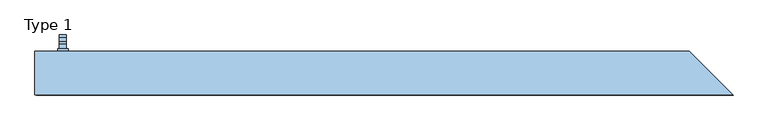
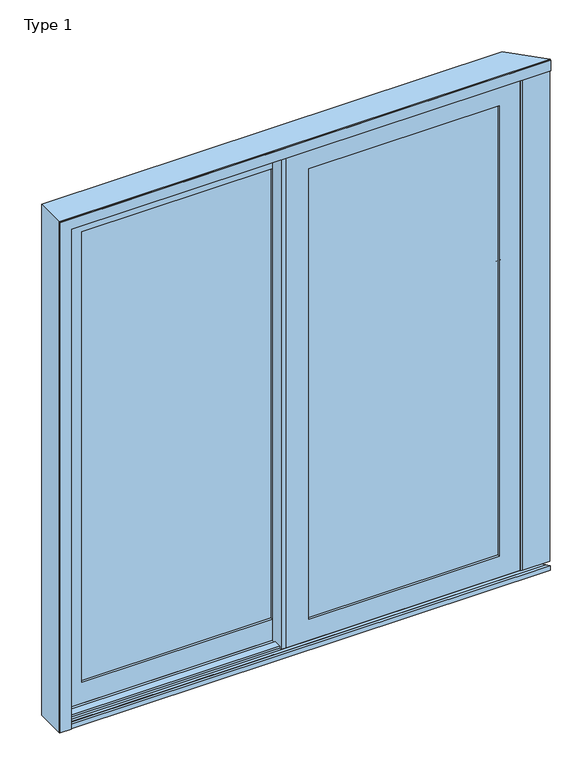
"""IFC4 building model written with IfcOpenShell, lengths in millimetres: window geometry, ETEM_E50_Double_Lift_Sliding-Corner Profile : Type 1."""

from ifc_helpers import new_model, si_unit, point, frame, frame_2d, origin, place, context, project, spatial, polyline, circle_curve, trimmed, segment, composite_curve, outline, extrude, faceted_brep, source, transform, mapped, element, save


def type_1_522c6c81(model_context):
    return source(origin(), model_context, "Body", "SolidModel", [
        extrude(outline(polyline([(859.8, -36.4240972), (859.8, -49.4240972), (829.8, -49.4240972), (829.8, -36.4240972), (859.8, -36.4240972)])), frame((0.0, 0.0, 1065.0), z_axis=(0.0, 0.0, 1.0), x_axis=(1.0, 0.0, 0.0)), (0.0, 0.0, 1.0), 70.0),
        extrude(outline(composite_curve([segment(polyline([(-36.4240972, 1090.0), (-36.4240972, 1110.0), (-9.9596311, 1110.0)]), True, "CONTINUOUS"), segment(trimmed(circle_curve(frame_2d((-9.9596311, 1113.5355339)), 3.5355339), [point((-9.9596311, 1110.0))], [point((-6.4240972, 1113.5355339))], True, "CARTESIAN"), True, "CONTINUOUS"), segment(polyline([(-6.4240972, 1113.5355339), (-6.4240972, 1326.4644661)]), True, "CONTINUOUS"), segment(trimmed(circle_curve(frame_2d((-9.9596311, 1326.4644661)), 3.5355339), [point((-6.4240972, 1326.4644661))], [point((-9.9596311, 1330.0))], True, "CARTESIAN"), True, "CONTINUOUS"), segment(polyline([(-9.9596311, 1330.0), (-16.4240972, 1330.0)]), True, "CONTINUOUS"), segment(trimmed(circle_curve(frame_2d((-16.4240972, 1335.0)), 5.0), [point((-16.4240972, 1330.0))], [point((-16.4240972, 1340.0))], False, "CARTESIAN"), True, "CONTINUOUS"), segment(polyline([(-16.4240972, 1340.0), (-4.8504124, 1340.0)]), True, "CONTINUOUS"), segment(trimmed(circle_curve(frame_2d((-4.8504124, 1331.5736848)), 8.4263152), [point((-4.8504124, 1340.0))], [point((3.5759028, 1331.5736848))], False, "CARTESIAN"), True, "CONTINUOUS"), segment(polyline([(3.5759028, 1331.5736848), (3.5759028, 1098.4263152)]), True, "CONTINUOUS"), segment(trimmed(circle_curve(frame_2d((-4.8504124, 1098.4263152)), 8.4263152), [point((3.5759028, 1098.4263152))], [point((-4.8504124, 1090.0))], False, "CARTESIAN"), True, "CONTINUOUS"), segment(polyline([(-4.8504124, 1090.0), (-36.4240972, 1090.0)]), True, "CONTINUOUS")], self_intersect=False)), frame((834.8, 0.0, 0.0), z_axis=(1.0, 0.0, 0.0), x_axis=(0.0, 1.0, 0.0)), (0.0, 0.0, 1.0), 20.0),
        extrude(outline(polyline([(-904.999965, 28.6518056), (-904.999965, 15.6518056), (-934.999965, 15.6518056), (-934.999965, 28.6518056), (-904.999965, 28.6518056)])), frame((0.0, 0.0, 1065.0), z_axis=(0.0, 0.0, 1.0), x_axis=(1.0, 0.0, 0.0)), (0.0, 0.0, 1.0), 70.0),
        extrude(outline(composite_curve([segment(polyline([(28.6518056, 1090.0), (28.6518056, 1110.0), (55.1162717, 1110.0)]), True, "CONTINUOUS"), segment(trimmed(circle_curve(frame_2d((55.1162717, 1113.5355339)), 3.5355339), [point((55.1162717, 1110.0))], [point((58.6518056, 1113.5355339))], True, "CARTESIAN"), True, "CONTINUOUS"), segment(polyline([(58.6518056, 1113.5355339), (58.6518056, 1326.4644661)]), True, "CONTINUOUS"), segment(trimmed(circle_curve(frame_2d((55.1162717, 1326.4644661)), 3.5355339), [point((58.6518056, 1326.4644661))], [point((55.1162717, 1330.0))], True, "CARTESIAN"), True, "CONTINUOUS"), segment(polyline([(55.1162717, 1330.0), (48.6518056, 1330.0)]), True, "CONTINUOUS"), segment(trimmed(circle_curve(frame_2d((48.6518056, 1335.0)), 5.0), [point((48.6518056, 1330.0))], [point((48.6518056, 1340.0))], False, "CARTESIAN"), True, "CONTINUOUS"), segment(polyline([(48.6518056, 1340.0), (60.2254904, 1340.0)]), True, "CONTINUOUS"), segment(trimmed(circle_curve(frame_2d((60.2254904, 1331.5736848)), 8.4263152), [point((60.2254904, 1340.0))], [point((68.6518056, 1331.5736848))], False, "CARTESIAN"), True, "CONTINUOUS"), segment(polyline([(68.6518056, 1331.5736848), (68.6518056, 1098.4263152)]), True, "CONTINUOUS"), segment(trimmed(circle_curve(frame_2d((60.2254904, 1098.4263152)), 8.4263152), [point((68.6518056, 1098.4263152))], [point((60.2254904, 1090.0))], False, "CARTESIAN"), True, "CONTINUOUS"), segment(polyline([(60.2254904, 1090.0), (28.6518056, 1090.0)]), True, "CONTINUOUS")], self_intersect=False)), frame((-929.999965, 0.0, 0.0), z_axis=(1.0, 0.0, 0.0), x_axis=(0.0, 1.0, 0.0)), (0.0, 0.0, 1.0), 20.0),
        faceted_brep([(-2.1, 10.9518056, 2160.5), (-2.1, 10.9518056, 39.5), (-2.1, 15.6518056, 39.5), (-2.1, 15.6518056, 2160.5), (-960.499965, 15.6518056, 39.5), (-960.499965, 15.6518056, 2160.5), (-93.6, 15.6518056, 131.0), (-93.6, 15.6518056, 2069.0), (-868.999965, 15.6518056, 2069.0), (-868.999965, 15.6518056, 131.0), (-960.499965, 10.9518056, 39.5), (-960.499965, 10.9518056, 2160.5), (-31.3, 10.9518056, 2131.3), (-31.3, 10.9518056, 68.7), (-931.299965, 10.9518056, 68.7), (-931.299965, 10.9518056, 2131.3), (-31.3, -29.6481944, 2131.3), (-31.3, -29.6481944, 68.7), (-931.299965, -29.6481944, 68.7), (-2.1, -29.6481944, 2160.5), (-2.1, -29.6481944, 39.5), (-960.499965, -29.6481944, 39.5), (-960.499965, -29.6481944, 2160.5), (-931.299965, -29.6481944, 2131.3), (-2.1, -34.3481944, 2160.5), (-2.1, -34.3481944, 39.5), (-960.499965, -34.3481944, 39.5), (-960.499965, -34.3481944, 2160.5), (-93.6, -34.3481944, 2069.0), (-93.6, -34.3481944, 131.0), (-868.999965, -34.3481944, 131.0), (-868.999965, -34.3481944, 2069.0)], [[[0, 1, 2, 3]], [[3, 2, 4, 5], [6, 7, 8, 9]], [[1, 10, 4, 2]], [[1, 0, 11, 10], [12, 13, 14, 15]], [[16, 17, 13, 12]], [[17, 18, 14, 13]], [[19, 20, 21, 22], [17, 16, 23, 18]], [[24, 25, 20, 19]], [[25, 26, 21, 20]], [[25, 24, 27, 26], [28, 29, 30, 31]], [[10, 11, 5, 4]], [[18, 23, 15, 14]], [[26, 27, 22, 21]], [[6, 9, 30, 29]], [[9, 8, 31, 30]], [[7, 6, 29, 28]], [[11, 0, 3, 5]], [[23, 16, 12, 15]], [[27, 24, 19, 22]], [[8, 7, 28, 31]]]),
        faceted_brep([(-73.1, -94.6481944, 2160.5), (-73.1, -94.6481944, 39.5), (-73.1, -99.3481944, 39.5), (-73.1, -99.3481944, 2160.5), (885.299965, -94.6481944, 39.5), (885.299965, -99.3481944, 39.5), (885.299965, -99.3481944, 2160.5), (793.8, -99.3481944, 130.999965), (18.399965, -99.3481944, 130.999965), (18.399965, -99.3481944, 2069.000035), (793.8, -99.3481944, 2069.000035), (885.299965, -94.6481944, 2160.5), (-43.9, -94.6481944, 68.7), (856.099965, -94.6481944, 68.7), (856.099965, -94.6481944, 2131.3), (-43.9, -94.6481944, 2131.3), (-43.9, -54.0481944, 2131.3), (-43.9, -54.0481944, 68.7), (856.099965, -54.0481944, 68.7), (856.099965, -54.0481944, 2131.3), (-73.1, -54.0481944, 39.5), (885.299965, -54.0481944, 39.5), (885.299965, -54.0481944, 2160.5), (-73.1, -54.0481944, 2160.5), (-73.1, -49.4240972, 2160.5), (-73.1, -49.4240972, 39.5), (885.299965, -49.4240972, 39.5), (885.299965, -49.4240972, 2160.5), (18.399965, -49.4240972, 130.999965), (793.8, -49.4240972, 130.999965), (793.8, -49.4240972, 2069.000035), (18.399965, -49.4240972, 2069.000035)], [[[0, 1, 2, 3]], [[1, 4, 5, 2]], [[2, 5, 6, 3], [7, 8, 9, 10]], [[4, 11, 6, 5]], [[4, 1, 0, 11], [12, 13, 14, 15]], [[16, 17, 12, 15]], [[17, 18, 13, 12]], [[18, 19, 14, 13]], [[20, 21, 22, 23], [18, 17, 16, 19]], [[24, 25, 20, 23]], [[25, 26, 21, 20]], [[26, 27, 22, 21]], [[26, 25, 24, 27], [28, 29, 30, 31]], [[9, 8, 28, 31]], [[8, 7, 29, 28]], [[7, 10, 30, 29]], [[11, 0, 3, 6]], [[19, 16, 15, 14]], [[27, 24, 23, 22]], [[10, 9, 31, 30]]]),
        extrude(outline(polyline([(18.399965, 15.6518056), (18.399965, -45.3481944), (-2.1, -45.3481944), (-2.1, 15.6518056), (18.399965, 15.6518056)])), frame((0.0, 0.0, 39.5), z_axis=(0.0, 0.0, 1.0), x_axis=(1.0, 0.0, 0.0)), (0.0, 0.0, 1.0), 2121.0),
        extrude(outline(polyline([(-93.6, -38.3481944), (-73.1, -38.3481944), (-73.1, -99.3481944), (-93.6, -99.3481944), (-93.6, -38.3481944)])), frame((0.0, 0.0, 39.5), z_axis=(0.0, 0.0, 1.0), x_axis=(1.0, 0.0, 0.0)), (0.0, 0.0, 1.0), 2121.0),
        extrude(outline(polyline([(-93.6, -0.3481944), (-93.6, -5.3481944), (-868.999965, -5.3481944), (-868.999965, -0.3481944), (-93.6, -0.3481944)])), frame((0.0, 0.0, 131.0), z_axis=(0.0, 0.0, 1.0), x_axis=(1.0, 0.0, 0.0)), (0.0, 0.0, 1.0), 1938.0),
        extrude(outline(polyline([(18.399965, -91.3480733), (18.399965, -86.3480733), (793.8, -86.3480733), (793.8, -91.3480733), (18.399965, -91.3480733)])), frame((0.0, 0.0, 130.999965), z_axis=(0.0, 0.0, 1.0), x_axis=(1.0, 0.0, 0.0)), (0.0, 0.0, 1.0), 1938.00007),
        faceted_brep([(-996.499965, -103.5481944, 0.0), (-1000.0, -103.5481944, 0.0), (-1000.0, 21.2518056, 0.0), (875.2, 21.2518056, 0.0), (1000.0, -103.5481944, 0.0), (-951.499965, -103.5481944, 0.0), (-951.499965, -105.0, 0.0), (-996.499965, -105.0, 0.0), (-996.499965, -105.0, 2196.499965), (-996.499965, -103.5481944, 2196.499965), (-951.499965, -105.0, 2151.499965), (1001.5, -105.0, 2151.499965), (1001.4518056, -105.0, 2196.499965), (-951.499965, -103.5481944, 19.8), (-951.499965, -101.4, 19.8), (-951.499965, -101.4, 2151.499965), (1000.0, -103.5481944, 2196.499965), (1000.0, -103.5481944, 2200.0), (-1000.0, -103.5481944, 2200.0), (1000.0, -103.5481944, 19.8), (875.2, 21.2518056, 48.5), (878.8, 17.6518056, 48.5), (878.8, 17.6518056, 21.8), (901.3, -4.8481944, 21.8), (901.3, -4.8481944, 40.5), (889.8, 6.6518056, 40.5), (889.8, 6.6518056, 48.5), (921.8, -25.3481944, 48.5), (921.8, -25.3481944, 40.5), (910.3, -13.8481944, 40.5), (910.3, -13.8481944, 21.8), (966.3, -69.8481944, 21.8), (966.3, -69.8481944, 40.5), (954.8, -58.3481944, 40.5), (954.8, -58.3481944, 48.5), (986.8, -90.3481944, 48.5), (986.8, -90.3481944, 40.5), (975.3, -78.8481944, 40.5), (975.3, -78.8481944, 21.8), (988.5, -92.0481944, 21.8), (988.5, -92.0481944, 19.8), (-951.5, 21.2518056, 48.5), (-1000.0, 21.2518056, 2200.0), (875.2, 21.2518056, 2200.0), (875.2, 21.2518056, 2151.5), (-951.5, 21.2518056, 2151.5), (-978.2, -92.0481944, 21.8), (-978.2, -78.8481944, 21.8), (-978.199965, -78.8481944, 2178.2), (-978.199965, -101.4, 2178.199965), (-978.199965, -101.4, 19.8), (-978.199965, -92.0481944, 19.8), (-959.5, -78.8481944, 40.5), (-959.5, -78.8481944, 2159.5), (975.3, -78.8481944, 2159.5), (975.3, -78.8481944, 2178.2), (-959.5, -90.3481944, 40.5), (-959.5, -90.3481944, 2159.5), (-951.5, -90.3481944, 48.5), (-951.5, -90.3481944, 2151.5), (986.8, -90.3481944, 2151.5), (986.8, -90.3481944, 2159.5), (-951.5, -58.3481944, 48.5), (-951.5, -58.3481944, 2151.5), (-959.5, -58.3481944, 40.5), (-959.5, -58.3481944, 2159.5), (954.8, -58.3481944, 2159.5), (954.8, -58.3481944, 2151.5), (-978.2, -69.8481944, 21.8), (-978.2, -13.8481944, 21.8), (-978.2, -13.8481944, 2178.2), (-978.2, -69.8481944, 2178.2), (-959.5, -13.8481944, 40.5), (-959.5, -13.8481944, 2159.5), (910.3, -13.8481944, 2159.5), (910.3, -13.8481944, 2178.2), (-959.5, -69.8481944, 40.5), (966.3, -69.8481944, 2178.2), (966.3, -69.8481944, 2159.5), (-959.5, -69.8481944, 2159.5), (-951.5, -25.3481944, 48.5), (-951.5, 6.6518056, 48.5), (-951.5, 6.6518056, 2151.5), (-951.5, -25.3481944, 2151.5), (-959.5, 6.6518056, 40.5), (-959.5, 6.6518056, 2159.5), (889.8, 6.6518056, 2159.5), (889.8, 6.6518056, 2151.5), (-959.5, -25.3481944, 40.5), (921.8, -25.3481944, 2151.5), (921.8, -25.3481944, 2159.5), (-959.5, -25.3481944, 2159.5), (-978.2, -4.8481944, 21.8), (-978.2, 17.6518056, 21.8), (-978.2, 17.6518056, 2178.2), (-978.2, -4.8481944, 2178.2), (-951.5, 17.6518056, 48.5), (-951.5, 17.6518056, 2151.5), (878.8, 17.6518056, 2151.5), (878.8, 17.6518056, 2178.2), (-959.5, -4.8481944, 40.5), (901.3, -4.8481944, 2178.2), (901.3, -4.8481944, 2159.5), (-959.5, -4.8481944, 2159.5), (997.8518056, -101.4, 2178.199965), (997.8518056, -101.4, 2151.499965)], [[[0, 1, 2, 3, 4, 5, 6, 7]], [[7, 8, 9, 0]], [[6, 10, 11, 12, 8, 7]], [[10, 6, 5, 13, 14, 15]], [[1, 0, 9, 16, 17, 18]], [[4, 19, 13, 5]], [[3, 20, 21, 22, 23, 24, 25, 26, 27, 28, 29, 30, 31, 32, 33, 34, 35, 36, 37, 38, 39, 40, 19, 4]], [[41, 20, 3, 2, 42, 43, 44, 45]], [[1, 18, 42, 2]], [[46, 39, 38, 47]], [[47, 48, 49, 50, 51, 46]], [[47, 38, 37, 52, 53, 54, 55, 48]], [[51, 40, 39, 46]], [[52, 37, 36, 56]], [[52, 56, 57, 53]], [[56, 36, 35, 58, 59, 60, 61, 57]], [[58, 35, 34, 62]], [[58, 62, 63, 59]], [[62, 34, 33, 64, 65, 66, 67, 63]], [[68, 31, 30, 69]], [[68, 69, 70, 71]], [[69, 30, 29, 72, 73, 74, 75, 70]], [[76, 32, 31, 68, 71, 77, 78, 79]], [[80, 27, 26, 81]], [[81, 82, 83, 80]], [[81, 26, 25, 84, 85, 86, 87, 82]], [[88, 28, 27, 80, 83, 89, 90, 91]], [[72, 29, 28, 88]], [[72, 88, 91, 73]], [[92, 23, 22, 93]], [[92, 93, 94, 95]], [[93, 22, 21, 96, 97, 98, 99, 94]], [[100, 24, 23, 92, 95, 101, 102, 103]], [[96, 21, 20, 41]], [[96, 41, 45, 97]], [[64, 33, 32, 76]], [[79, 65, 64, 76]], [[84, 25, 24, 100]], [[84, 100, 103, 85]], [[19, 40, 51, 50, 14, 13]], [[14, 50, 49, 104, 105, 15]], [[8, 12, 16, 9]], [[15, 105, 11, 10]], [[17, 43, 42, 18]], [[57, 61, 54, 53]], [[63, 67, 60, 59]], [[70, 75, 77, 71]], [[82, 87, 89, 83]], [[91, 90, 74, 73]], [[94, 99, 101, 95]], [[45, 44, 98, 97]], [[79, 78, 66, 65]], [[103, 102, 86, 85]], [[48, 55, 104, 49]], [[12, 11, 105, 104, 55, 54, 61, 60, 67, 66, 78, 77, 75, 74, 90, 89, 87, 86, 102, 101, 99, 98, 44, 43, 17, 16]]]),
        extrude(outline(polyline([(18.399965, -70.3481944), (18.399965, -65.3481944), (793.8, -65.3481944), (793.8, -70.3481944), (18.399965, -70.3481944)])), frame((0.0, 0.0, 130.999965), z_axis=(0.0, 0.0, 1.0), x_axis=(1.0, 0.0, 0.0)), (0.0, 0.0, 1.0), 1938.00007),
        extrude(outline(polyline([(-93.6, -21.3480733), (-93.6, -26.3480733), (-868.999965, -26.3480733), (-868.999965, -21.3480733), (-93.6, -21.3480733)])), frame((0.0, 0.0, 131.0), z_axis=(0.0, 0.0, 1.0), x_axis=(1.0, 0.0, 0.0)), (0.0, 0.0, 1.0), 1938.0),
        extrude(outline(polyline([(942.8000006, -46.348195), (942.8000006, -56.3398163), (948.3693601, -56.5437493), (953.1999999, -61.3743891), (953.1999999, -91.1481944), (985.1037201, -91.1481944), (985.1037201, -101.0481944), (997.942271, -101.4904654), (998.7999994, -102.3481938), (885.3000003, -102.3481938), (878.3000003, -100.3481938), (878.3000003, -99.3481944), (885.299965, -99.3481944), (885.299965, -49.4240972), (878.3000003, -49.4240972), (878.3000003, -48.348195), (885.3000003, -46.348195), (942.8000006, -46.348195)])), frame((0.0, 0.0, 39.5), z_axis=(0.0, 0.0, 1.0), x_axis=(1.0, 0.0, 0.0)), (0.0, 0.0, 1.0), 2121.0),
    ])


if __name__ == "__main__":
    model = new_model("IFC4")
    model_context = context("Model", 3, world=origin())
    ifc_project = project(units=[si_unit("LENGTHUNIT", "METRE", prefix="MILLI")], contexts=[model_context])
    site = spatial("IfcSite", under=ifc_project)
    building = spatial("IfcBuilding", under=site)
    placement = place(None, origin())
    type_1_shape = type_1_522c6c81(model_context)
    element("IfcWindow", 1, ObjectType="ETEM_E50_Double_Lift_Sliding-Corner Profile : Type 1", at=placement, inside=building, context=model_context, shape_type="MappedRepresentation", body=[
        mapped(type_1_shape, transform((0.0, 0.0, 0.0), x_axis=(1.0, 0.0, 0.0), y_axis=(0.0, 1.0, 0.0), z_axis=(0.0, 0.0, 1.0))),
    ])
    save(model, "model.ifc")
